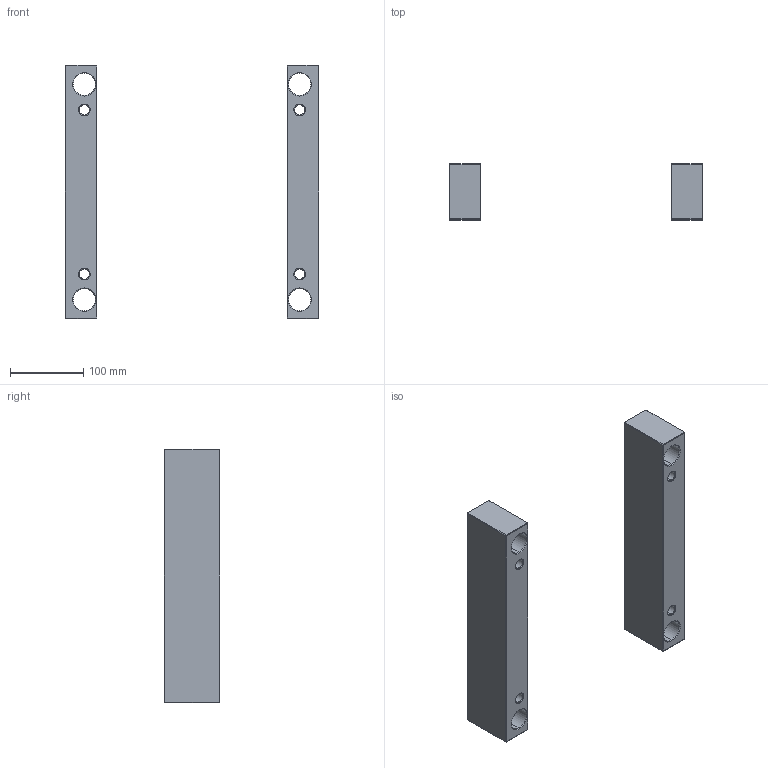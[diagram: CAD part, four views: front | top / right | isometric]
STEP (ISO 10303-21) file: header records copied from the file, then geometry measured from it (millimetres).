
FILE_DESCRIPTION (( 'STEP AP214' ), '1' );
FILE_NAME ('ESP-EU-346X346x76.STEP', '2020-04-16T10:01:06', ( 'August' ), ( '' ), 'SwSTEP 2.0', 'SolidWorks 2018', '' );
FILE_SCHEMA (( 'AUTOMOTIVE_DESIGN' ));
Length unit declared in the file: millimetre
Products named in the file (1): ESP-EU-346X346x76
Bounding box: 346 x 76 x 346 mm (x, y, z)
Volume: 1997354.9 mm3; surface area: 210091.5 mm2
Topology: 2 solids, 2 shells, 100 faces, 224 edges, 120 vertices
Faces by surface type: plane 52, cone 32, cylinder 16
Entity records: 2751 total; most frequent: DIRECTION 498, ORIENTED_EDGE 448, CARTESIAN_POINT 445, EDGE_CURVE 224, AXIS2_PLACEMENT_3D 173, VECTOR 152, LINE 152, VERTEX_POINT 120
